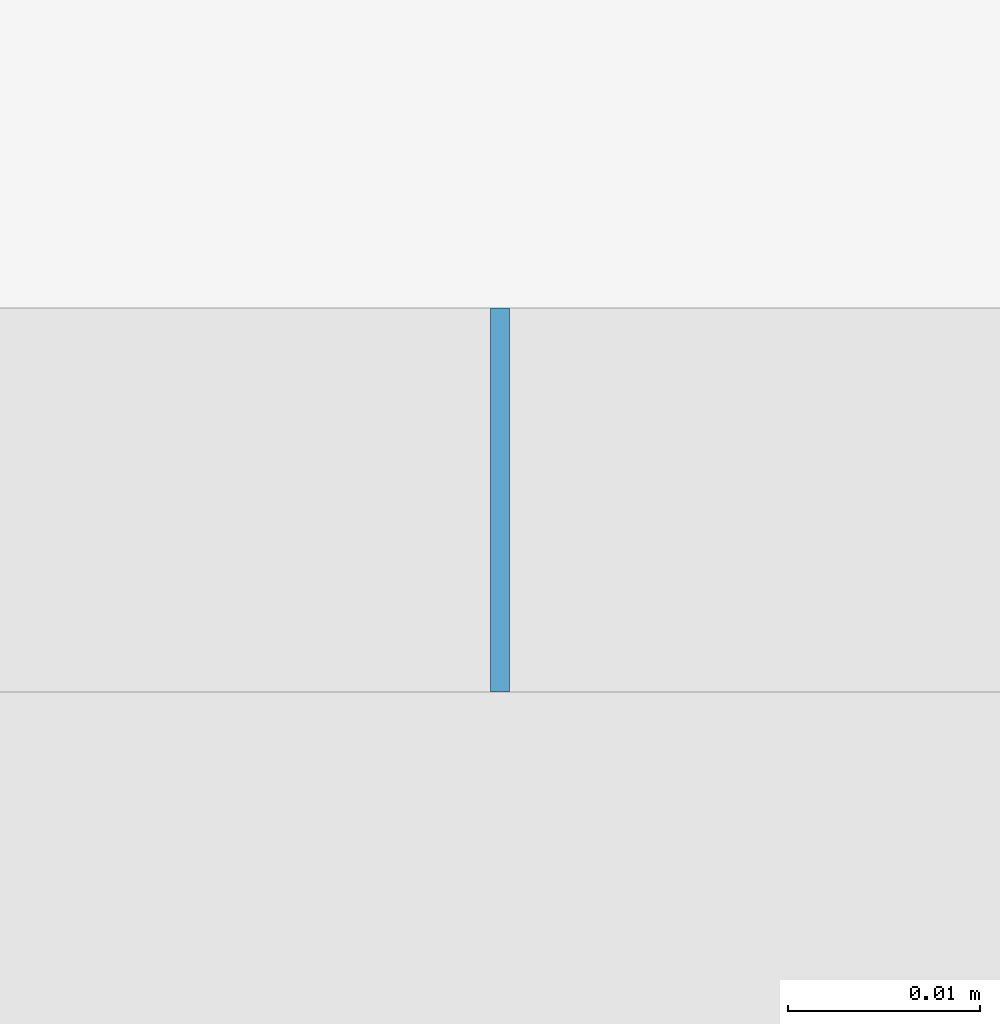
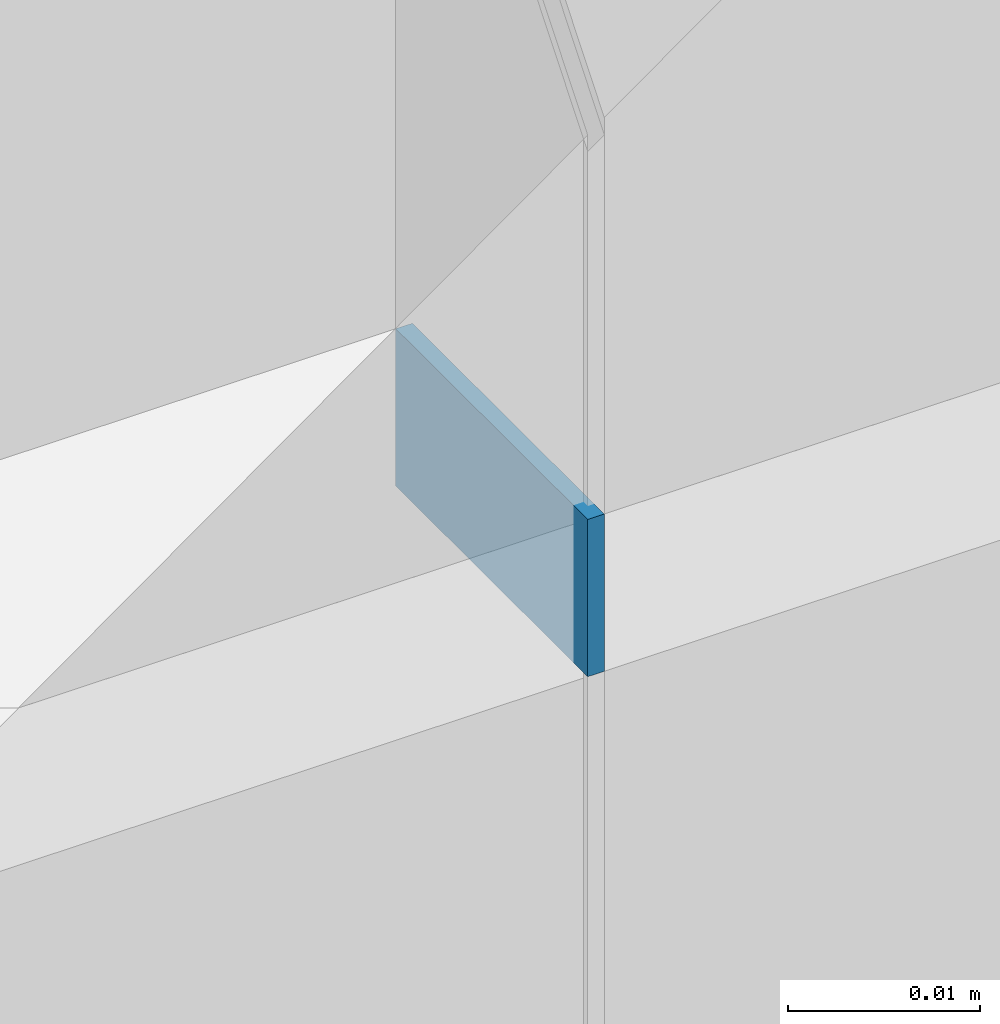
# One storey, part 38 of 66: 1 plate, 1 element without a shape of its own.
"""IFC2X3 building model written with IfcOpenShell, lengths in millimetres."""

from ifc_helpers import new_model, entity, si_unit, converted_unit, derived_unit, direction, frame, origin, origin_2d_with_axis, place, context, subcontext, project, spatial, rectangle, extrude, source, transform, mapped, material, layer, layer_set, layer_usage, type_object, type_shapes, element, aggregate, save


model = new_model("IFC2X3")

# Units and contexts
model_context = context("Model", 3, precision=0.01, world=origin(), true_north=direction((6.12303176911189e-17, 1.0)))
body_context = subcontext(model_context, "Body", "Model", "MODEL_VIEW")
ifc_project = project(units=[si_unit("LENGTHUNIT", "METRE", prefix="MILLI"), si_unit("AREAUNIT", "SQUARE_METRE"), si_unit("VOLUMEUNIT", "CUBIC_METRE"), converted_unit("PLANEANGLEUNIT", "DEGREE", entity("IfcRatioMeasure", 0.0174532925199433), si_unit("PLANEANGLEUNIT", "RADIAN"), dimensions=[0, 0, 0, 0, 0, 0, 0]), si_unit("MASSUNIT", "GRAM", prefix="KILO"), derived_unit("MASSDENSITYUNIT", [(si_unit("MASSUNIT", "GRAM", prefix="KILO"), 1), (si_unit("LENGTHUNIT", "METRE"), -3)]), si_unit("TIMEUNIT", "SECOND"), si_unit("FREQUENCYUNIT", "HERTZ"), si_unit("THERMODYNAMICTEMPERATUREUNIT", "DEGREE_CELSIUS"), derived_unit("THERMALTRANSMITTANCEUNIT", [(si_unit("MASSUNIT", "GRAM", prefix="KILO"), 1), (si_unit("THERMODYNAMICTEMPERATUREUNIT", "KELVIN"), -1), (si_unit("TIMEUNIT", "SECOND"), -3)]), derived_unit("VOLUMETRICFLOWRATEUNIT", [(si_unit("LENGTHUNIT", "METRE"), 3), (si_unit("TIMEUNIT", "SECOND"), -1)]), si_unit("ELECTRICCURRENTUNIT", "AMPERE"), si_unit("ELECTRICVOLTAGEUNIT", "VOLT"), si_unit("POWERUNIT", "WATT"), si_unit("FORCEUNIT", "NEWTON", prefix="KILO"), si_unit("ILLUMINANCEUNIT", "LUX"), si_unit("LUMINOUSFLUXUNIT", "LUMEN"), si_unit("LUMINOUSINTENSITYUNIT", "CANDELA"), derived_unit("USERDEFINED", [(si_unit("MASSUNIT", "GRAM", prefix="KILO"), -1), (si_unit("LENGTHUNIT", "METRE"), -2), (si_unit("TIMEUNIT", "SECOND"), 3), (si_unit("LUMINOUSFLUXUNIT", "LUMEN"), 1)]), derived_unit("LINEARVELOCITYUNIT", [(si_unit("LENGTHUNIT", "METRE"), 1), (si_unit("TIMEUNIT", "SECOND"), -1)]), si_unit("PRESSUREUNIT", "PASCAL"), derived_unit("USERDEFINED", [(si_unit("LENGTHUNIT", "METRE"), -2), (si_unit("MASSUNIT", "GRAM", prefix="KILO"), 1), (si_unit("TIMEUNIT", "SECOND"), -2)])], contexts=[model_context])

# Site, building, storey
site_placement = place(None, frame((-151.875543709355, 2715.0, 0.0)))
site = spatial("IfcSite", under=ifc_project, at=site_placement, Name="Surface", CompositionType="ELEMENT")
building_placement = place(site_placement, origin())
building = spatial("IfcBuilding", under=site, at=building_placement, CompositionType="ELEMENT")
storey_placement = place(building_placement, frame((0.0, 0.0, 3350.0)))
storey = spatial("IfcBuildingStorey", under=building, at=storey_placement, Name="2 korrus", CompositionType="ELEMENT", Elevation=3350.00000000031)

# Curtain wall, plate
curtain_wall_type = type_object("IfcCurtainWallType", Name="Curtain Wall:Klaassein KLS-08", PredefinedType="NOTDEFINED")
curtain_wall_placement = place(storey_placement, frame((0.0, 0.0, -3350.0)))
curtain_wall = element("IfcCurtainWall", 1, at=curtain_wall_placement, inside=storey, type_object=curtain_wall_type, Name="Curtain Wall:Klaassein KLS-08", ObjectType="Curtain Wall:Klaassein KLS-08")
ifc_material = material(Name="<Unnamed>")
ifc_layer = layer(ifc_material, 20.0)
ifc_layer_set = layer_set([ifc_layer], Name="Curtain Wall:Klaassein KLS-01")
ifc_layer_usage = layer_usage(ifc_layer_set, "AXIS3", "POSITIVE", 0.0)
plate_type = type_object("IfcPlateType", Name="Glazed", PredefinedType="CURTAIN_PANEL", material=ifc_layer_set)
shared_shape = source(origin(), body_context, "Body", "SweptSolid", [
    extrude(rectangle(XDim=20.0, YDim=0.999999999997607, at=origin_2d_with_axis()), frame((0.0, 0.0, 0.0), z_axis=(0.0, 0.0, 1.0), x_axis=(0.0, 1.0, 0.0)), (0.0, 0.0, 1.0), 9.99999999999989),
])
type_shapes(plate_type, [shared_shape])
plate_placement = place(curtain_wall_placement, frame((7659.98460786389, 4355.04493399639, 5440.0)))
plate = element("IfcPlate", 2, at=plate_placement, type_object=plate_type, material=ifc_layer_usage, Name="System Panel:Glazed", ObjectType="Glazed", context=body_context, shape_type="MappedRepresentation", body=[
    mapped(shared_shape, transform((0.0, 0.0, 0.0), scale=1.0)),
])
aggregate(curtain_wall, [plate])

save(model, "model.ifc")
